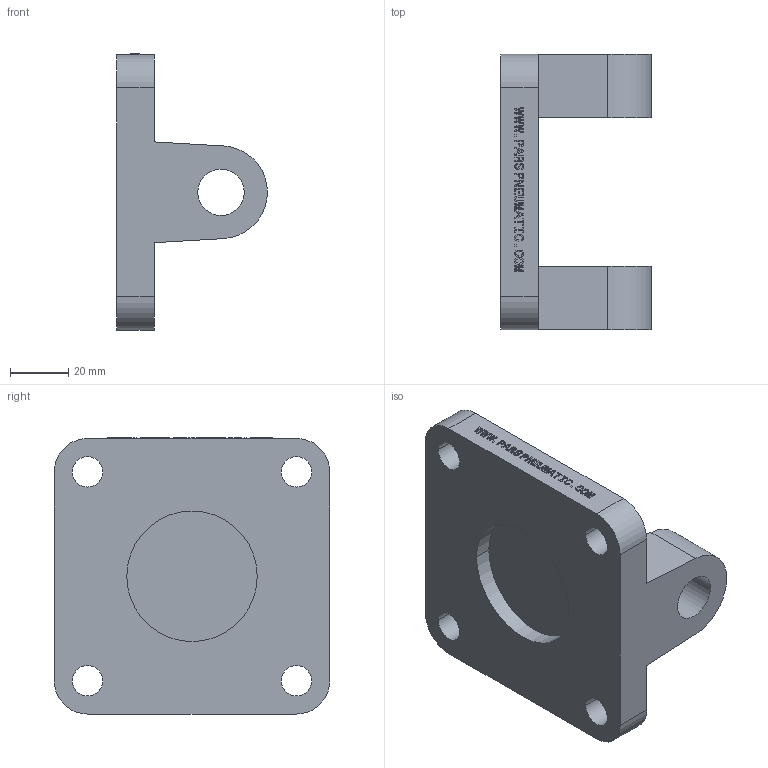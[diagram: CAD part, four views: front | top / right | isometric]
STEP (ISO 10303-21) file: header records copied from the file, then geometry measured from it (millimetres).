
FILE_DESCRIPTION(('CATIA V5 STEP Exchange'),'2;1');
FILE_NAME('D:\stp file for catalog\BAST-CB\CB 80.stp','2018-06-13T06:08:23+00:00',('none'),('none'),'CATIA Version 5-6 Release 2016','CATIA V5 STEP AP203','none');
FILE_SCHEMA(('CONFIG_CONTROL_DESIGN'));
Length unit declared in the file: millimetre
Products named in the file (1): PNC-CB 80-01
Bounding box: 52 x 95 x 95.2 mm (x, y, z)
Volume: 141567.9 mm3; surface area: 33597.1 mm2
Topology: 1 solids, 1 shells, 471 faces, 1311 edges, 874 vertices
Faces by surface type: plane 443, cylinder 28
Entity records: 14250 total; most frequent: ORIENTED_EDGE 2622, CARTESIAN_POINT 2541, DIRECTION 2021, EDGE_CURVE 1311, VECTOR 1255, LINE 1255, VERTEX_POINT 874, EDGE_LOOP 515
